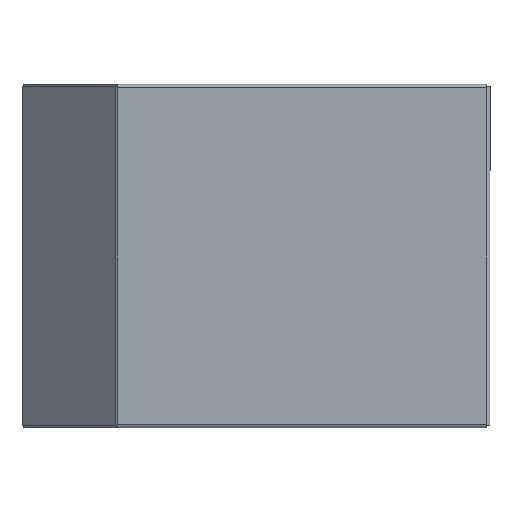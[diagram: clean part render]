
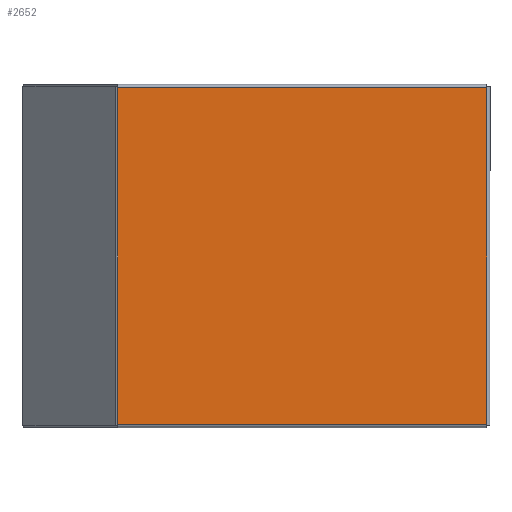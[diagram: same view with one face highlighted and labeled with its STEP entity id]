
A CAD part, left-side view. The second image highlights one B-rep face of the part: STEP entity #2652.
In plain terms, the highlighted planar face has unit normal (-1, 0, 0).
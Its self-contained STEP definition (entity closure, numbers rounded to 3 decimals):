
#454 = PLANE ( 'NONE',  #1110 ) ;
#913 = FACE_OUTER_BOUND ( 'NONE', #5704, .T. ) ;
#1110 = AXIS2_PLACEMENT_3D ( 'NONE', #3117, #1973, #3626 ) ;
#1157 = CARTESIAN_POINT ( 'NONE',  ( -100., -322.5, 135. ) ) ;
#1610 = VERTEX_POINT ( 'NONE', #1157 ) ;
#1973 = DIRECTION ( 'NONE',  ( 1., 0., 0. ) ) ;
#2264 = DIRECTION ( 'NONE',  ( 0., 1., 0. ) ) ;
#2652 = ADVANCED_FACE ( 'NONE', ( #913 ), #454, .F. ) ;
#2702 = ORIENTED_EDGE ( 'NONE', *, *, #3453, .T. ) ;
#2787 = VERTEX_POINT ( 'NONE', #4361 ) ;
#3117 = CARTESIAN_POINT ( 'NONE',  ( -100., -25.7, 136. ) ) ;
#3355 = CARTESIAN_POINT ( 'NONE',  ( -100., -26.736, -135. ) ) ;
#3409 = CARTESIAN_POINT ( 'NONE',  ( -100., -322.5, 136. ) ) ;
#3441 = EDGE_CURVE ( 'NONE', #4552, #2787, #4938, .T. ) ;
#3453 = EDGE_CURVE ( 'NONE', #3634, #4552, #5019, .T. ) ;
#3497 = EDGE_CURVE ( 'NONE', #1610, #3634, #4835, .T. ) ;
#3579 = ORIENTED_EDGE ( 'NONE', *, *, #3497, .T. ) ;
#3626 = DIRECTION ( 'NONE',  ( 0., 1., 0. ) ) ;
#3634 = VERTEX_POINT ( 'NONE', #5139 ) ;
#3769 = CARTESIAN_POINT ( 'NONE',  ( -100., -322.5, 135. ) ) ;
#3842 = LINE ( 'NONE', #3409, #3885 ) ;
#3870 = EDGE_CURVE ( 'NONE', #1610, #2787, #3842, .T. ) ;
#3885 = VECTOR ( 'NONE', #5132, 1000. ) ;
#4222 = CARTESIAN_POINT ( 'NONE',  ( -100., -26.736, 136. ) ) ;
#4361 = CARTESIAN_POINT ( 'NONE',  ( -100., -322.5, -135. ) ) ;
#4552 = VERTEX_POINT ( 'NONE', #5280 ) ;
#4835 = LINE ( 'NONE', #3769, #4852 ) ;
#4852 = VECTOR ( 'NONE', #2264, 1000. ) ;
#4876 = VECTOR ( 'NONE', #5477, 1000. ) ;
#4938 = LINE ( 'NONE', #3355, #5146 ) ;
#5019 = LINE ( 'NONE', #4222, #4876 ) ;
#5132 = DIRECTION ( 'NONE',  ( 0., 0., -1. ) ) ;
#5139 = CARTESIAN_POINT ( 'NONE',  ( -100., -26.736, 135. ) ) ;
#5146 = VECTOR ( 'NONE', #5563, 1000. ) ;
#5268 = ORIENTED_EDGE ( 'NONE', *, *, #3441, .T. ) ;
#5280 = CARTESIAN_POINT ( 'NONE',  ( -100., -26.736, -135. ) ) ;
#5473 = ORIENTED_EDGE ( 'NONE', *, *, #3870, .F. ) ;
#5477 = DIRECTION ( 'NONE',  ( 0., 0., -1. ) ) ;
#5563 = DIRECTION ( 'NONE',  ( 0., -1., 0. ) ) ;
#5704 = EDGE_LOOP ( 'NONE', ( #3579, #2702, #5268, #5473 ) ) ;
